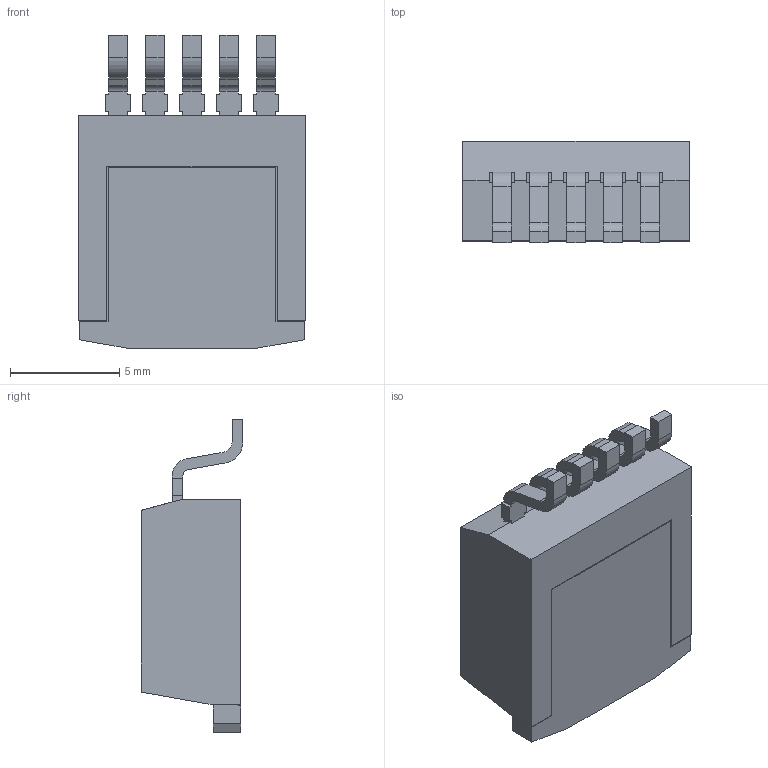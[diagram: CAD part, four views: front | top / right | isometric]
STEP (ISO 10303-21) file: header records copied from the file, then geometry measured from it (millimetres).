
FILE_DESCRIPTION (( 'STEP AP214' ), '1' );
FILE_NAME ('TO-263-5.step', '2011-06-02T07:50:42', ( 'vpeshkov' ), ( 'licard' ), 'SwSTEP 2.0', 'SolidWorks 2009', '' );
FILE_SCHEMA (( 'AUTOMOTIVE_DESIGN' ));
Length unit declared in the file: millimetre
Products named in the file (1): TO-263-5
Bounding box: 10.4 x 4.67 x 14.35 mm (x, y, z)
Volume: 460.2 mm3; surface area: 475.6 mm2
Topology: 1 solids, 1 shells, 130 faces, 382 edges, 254 vertices
Faces by surface type: plane 110, cylinder 20
Entity records: 5635 total; most frequent: CARTESIAN_POINT 767, ORIENTED_EDGE 764, DIRECTION 684, EDGE_CURVE 382, VECTOR 342, LINE 342, VERTEX_POINT 254, AXIS2_PLACEMENT_3D 171
